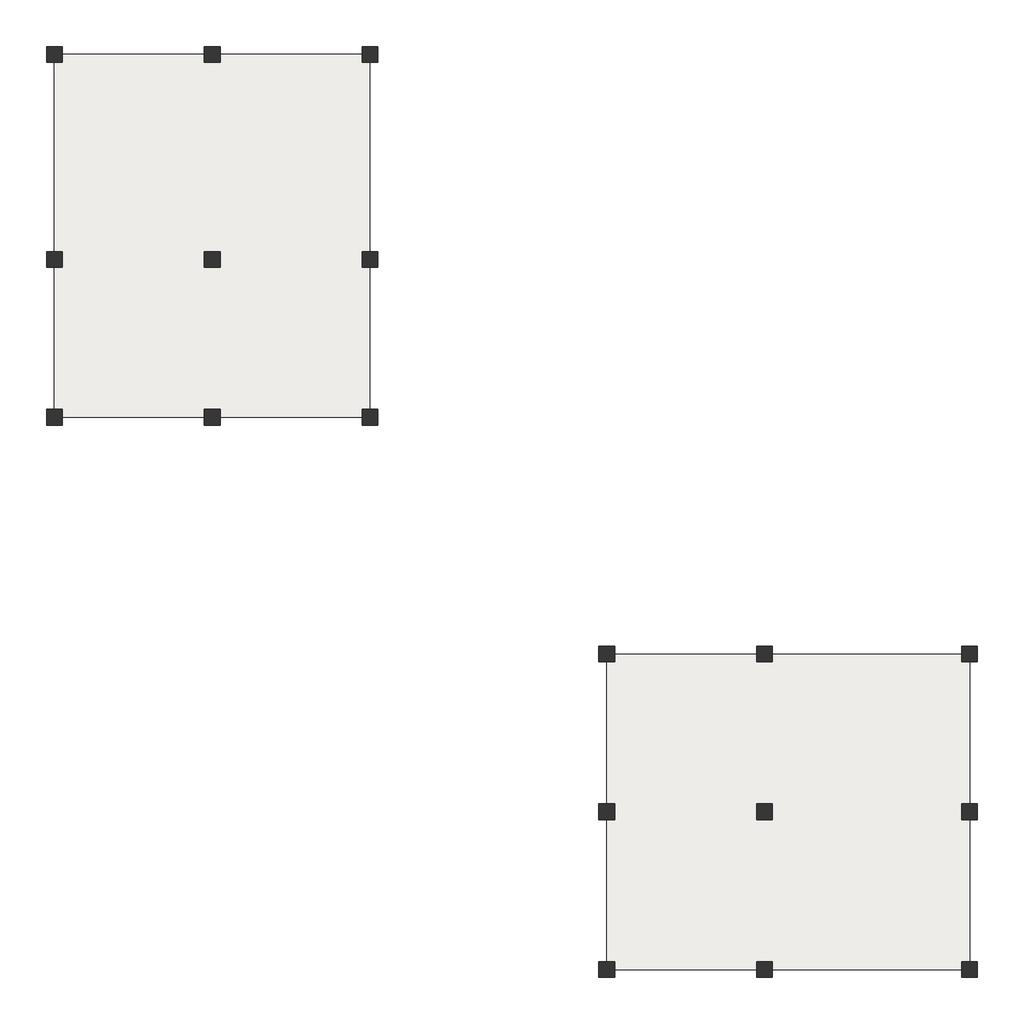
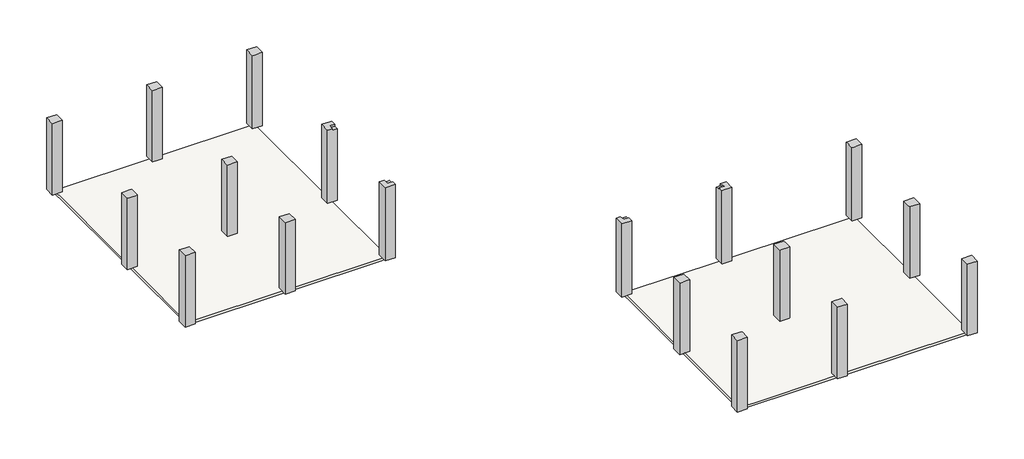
# One storey: 18 columns, 2 slabs.
"""IFC4 building model written with IfcOpenShell, lengths in millimetres."""

from ifc_helpers import new_model, si_unit, frame, origin, place, context, project, spatial, polyline, outline, extrude, faceted_brep, element, save

model = new_model("IFC4")

# Units and contexts
model_context = context("Model", 3, world=origin())
ifc_project = project(units=[si_unit("LENGTHUNIT", "METRE", prefix="MILLI")], contexts=[model_context])

# Site, building, storey
site = spatial("IfcSite", under=ifc_project)
building = spatial("IfcBuilding", under=site)
storey = spatial("IfcBuildingStorey", under=building, Name="T.O.F", Elevation=-1676.4)

# Columns
placement = place(None, origin())
element("IfcColumn", 1, ObjectType="Concrete-Rectangular-Column : 24 x 24", at=placement, inside=storey, context=model_context, shape_type="Brep", body=[
    faceted_brep([(-35055.8783408, -1898.5036449, -1676.4), (-35055.8783408, -1288.9036449, -1676.4), (-34446.2783408, -1288.9036449, -1676.4), (-34446.2783408, -1898.5036449, -1676.4), (-35055.8783408, -1898.5036449, 2927.35), (-35055.8783408, -1796.9036449, 2927.35), (-35055.8783408, -1390.5036449, 2927.35), (-35055.8783408, -1288.9036449, 2927.35), (-34446.2783408, -1288.9036449, 2927.35), (-34446.2783408, -1898.5036449, 2927.35)], [[[0, 1, 2, 3]], [[1, 0, 4, 5, 6, 7]], [[2, 1, 7, 8]], [[3, 2, 8, 9]], [[0, 3, 9, 4]], [[7, 6, 5, 4, 9, 8]]]),
])
element("IfcColumn", 2, ObjectType="Concrete-Rectangular-Column : 24 x 24", at=placement, inside=storey, context=model_context, shape_type="Brep", body=[
    faceted_brep([(-41151.8783408, -1898.5036449, -1676.4), (-41151.8783408, -1288.9036449, -1676.4), (-40542.2783408, -1288.9036449, -1676.4), (-40542.2783408, -1898.5036449, -1676.4), (-41151.8783408, -1898.5036449, 2927.35), (-41151.8783408, -1288.9036449, 2927.35), (-41050.2783408, -1288.9036449, 2927.35), (-40643.8783408, -1288.9036449, 2927.35), (-40542.2783408, -1288.9036449, 2927.35), (-40542.2783408, -1390.5036449, 2927.35), (-40542.2783408, -1796.9036449, 2927.35), (-40542.2783408, -1898.5036449, 2927.35)], [[[0, 1, 2, 3]], [[1, 0, 4, 5]], [[2, 1, 5, 6, 7, 8]], [[3, 2, 8, 9, 10, 11]], [[0, 3, 11, 4]], [[5, 4, 11, 10, 9, 8, 7, 6]]]),
])
element("IfcColumn", 3, ObjectType="Concrete-Rectangular-Column : 24 x 24", at=placement, inside=storey, context=model_context, shape_type="SweptSolid", body=[
    extrude(outline(polyline([(-35055.8783408, 4197.4963551), (-35055.8783408, 4807.0963551), (-34446.2783408, 4807.0963551), (-34446.2783408, 4197.4963551), (-35055.8783408, 4197.4963551)])), frame((0.0, 0.0, -1676.4), z_axis=(0.0, 0.0, 1.0), x_axis=(1.0, 0.0, 0.0)), (0.0, 0.0, 1.0), 4603.75),
])
element("IfcColumn", 4, ObjectType="Concrete-Rectangular-Column : 24 x 24", at=placement, inside=storey, context=model_context, shape_type="Brep", body=[
    faceted_brep([(-41151.8783408, 4197.4963551, -1676.4), (-41151.8783408, 4807.0963551, -1676.4), (-40542.2783408, 4807.0963551, -1676.4), (-40542.2783408, 4197.4963551, -1676.4), (-41151.8783408, 4197.4963551, 2927.35), (-41151.8783408, 4807.0963551, 2927.35), (-41050.2783408, 4807.0963551, 2927.35), (-40643.8783408, 4807.0963551, 2927.35), (-40542.2783408, 4807.0963551, 2927.35), (-40542.2783408, 4197.4963551, 2927.35), (-40643.8783408, 4197.4963551, 2927.35), (-41050.2783408, 4197.4963551, 2927.35)], [[[0, 1, 2, 3]], [[1, 0, 4, 5]], [[2, 1, 5, 6, 7, 8]], [[3, 2, 8, 9]], [[0, 3, 9, 10, 11, 4]], [[5, 4, 11, 10, 9, 8, 7, 6]]]),
])
element("IfcColumn", 5, ObjectType="Concrete-Rectangular-Column : 24 x 24", at=placement, inside=storey, context=model_context, shape_type="SweptSolid", body=[
    extrude(outline(polyline([(-35055.8783408, 12122.2963551), (-35055.8783408, 12731.8963551), (-34446.2783408, 12731.8963551), (-34446.2783408, 12122.2963551), (-35055.8783408, 12122.2963551)])), frame((0.0, 0.0, -1676.4), z_axis=(0.0, 0.0, 1.0), x_axis=(1.0, 0.0, 0.0)), (0.0, 0.0, 1.0), 4603.75),
])
element("IfcColumn", 6, ObjectType="Concrete-Rectangular-Column : 24 x 24", at=placement, inside=storey, context=model_context, shape_type="Brep", body=[
    faceted_brep([(-41151.8783408, 12122.2963551, -1676.4), (-41151.8783408, 12731.8963551, -1676.4), (-40542.2783408, 12731.8963551, -1676.4), (-40542.2783408, 12122.2963551, -1676.4), (-41151.8783408, 12122.2963551, 2927.35), (-41151.8783408, 12731.8963551, 2927.35), (-40542.2783408, 12731.8963551, 2927.35), (-40542.2783408, 12122.2963551, 2927.35), (-40643.8783408, 12122.2963551, 2927.35), (-41050.2783408, 12122.2963551, 2927.35)], [[[0, 1, 2, 3]], [[1, 0, 4, 5]], [[2, 1, 5, 6]], [[3, 2, 6, 7]], [[0, 3, 7, 8, 9, 4]], [[5, 4, 9, 8, 7, 6]]]),
])
element("IfcColumn", 7, ObjectType="Concrete-Rectangular-Column : 24 x 24", at=placement, inside=storey, context=model_context, shape_type="Brep", body=[
    faceted_brep([(-28959.8783408, 4197.4963551, -1676.4), (-28959.8783408, 4807.0963551, -1676.4), (-28350.2783408, 4807.0963551, -1676.4), (-28350.2783408, 4197.4963551, -1676.4), (-28959.8783408, 4197.4963551, 3048.0), (-28959.8783408, 4807.0963551, 3048.0), (-28858.2783408, 4807.0963551, 3048.0), (-28451.8783408, 4807.0963551, 3048.0), (-28350.2783408, 4807.0963551, 3048.0), (-28350.2783408, 4462.1686738, 3048.0), (-28350.2783408, 4462.1686738, 2921.0), (-28350.2783408, 4197.4963551, 2921.0), (-28451.8783408, 4197.4963551, 2921.0), (-28655.0783408, 4197.4963551, 2921.0), (-28655.0783408, 4197.4963551, 3048.0), (-28858.2783408, 4197.4963551, 3048.0), (-28655.0783408, 4502.2963551, 3048.0), (-28655.0783408, 4502.2963551, 2921.0)], [[[0, 1, 2, 3]], [[1, 0, 4, 5]], [[2, 1, 5, 6, 7, 8]], [[3, 2, 8, 9, 10, 11]], [[0, 3, 11, 12, 13, 14, 15, 4]], [[5, 4, 15, 14, 16, 9, 8, 7, 6]], [[10, 17, 13, 12, 11]], [[17, 16, 14, 13]], [[16, 17, 10, 9]]]),
])
element("IfcColumn", 8, ObjectType="Concrete-Rectangular-Column : 24 x 24", at=placement, inside=storey, context=model_context, shape_type="Brep", body=[
    faceted_brep([(-28959.8783408, -1898.5036449, -1676.4), (-28959.8783408, -1288.9036449, -1676.4), (-28350.2783408, -1288.9036449, -1676.4), (-28350.2783408, -1898.5036449, -1676.4), (-28959.8783408, -1898.5036449, 3048.0), (-28959.8783408, -1796.9036449, 3048.0), (-28959.8783408, -1390.5036449, 3048.0), (-28959.8783408, -1288.9036449, 3048.0), (-28858.2783408, -1288.9036449, 3048.0), (-28655.0783408, -1288.9036449, 3048.0), (-28655.0783408, -1288.9036449, 2921.0), (-28451.8783408, -1288.9036449, 2921.0), (-28350.2783408, -1288.9036449, 2921.0), (-28350.2783408, -1633.8313262, 2921.0), (-28350.2783408, -1633.8313262, 3048.0), (-28350.2783408, -1898.5036449, 3048.0), (-28655.0783408, -1593.7036449, 3048.0), (-28655.0783408, -1593.7036449, 2921.0)], [[[0, 1, 2, 3]], [[1, 0, 4, 5, 6, 7]], [[2, 1, 7, 8, 9, 10, 11, 12]], [[3, 2, 12, 13, 14, 15]], [[0, 3, 15, 4]], [[7, 6, 5, 4, 15, 14, 16, 9, 8]], [[10, 17, 13, 12, 11]], [[17, 16, 14, 13]], [[16, 17, 10, 9]]]),
])
element("IfcColumn", 9, ObjectType="Concrete-Rectangular-Column : 24 x 24", at=placement, inside=storey, context=model_context, shape_type="Brep", body=[
    faceted_brep([(-28959.8783408, 12122.2963551, -1676.4), (-28959.8783408, 12731.8963551, -1676.4), (-28350.2783408, 12731.8963551, -1676.4), (-28350.2783408, 12122.2963551, -1676.4), (-28959.8783408, 12122.2963551, 3048.0), (-28959.8783408, 12223.8963551, 3048.0), (-28959.8783408, 12630.2963551, 3048.0), (-28959.8783408, 12731.8963551, 3048.0), (-28350.2783408, 12731.8963551, 3048.0), (-28350.2783408, 12122.2963551, 3048.0), (-28451.8783408, 12122.2963551, 3048.0), (-28858.2783408, 12122.2963551, 3048.0)], [[[0, 1, 2, 3]], [[4, 5, 6, 7, 1, 0]], [[7, 8, 2, 1]], [[8, 9, 3, 2]], [[9, 10, 11, 4, 0, 3]], [[4, 11, 10, 9, 8, 7, 6, 5]]]),
])
element("IfcColumn", 10, ObjectType="Concrete-Rectangular-Column : 24 x 24", at=placement, inside=storey, context=model_context, shape_type="Brep", body=[
    faceted_brep([(-19206.2783408, -17138.5036449, -1676.4), (-19815.8783408, -17138.5036449, -1676.4), (-19815.8783408, -16528.9036449, -1676.4), (-19206.2783408, -16528.9036449, -1676.4), (-19206.2783408, -17138.5036449, 2927.35), (-19307.8783408, -17138.5036449, 2927.35), (-19714.2783408, -17138.5036449, 2927.35), (-19815.8783408, -17138.5036449, 2927.35), (-19206.2783408, -16528.9036449, 2927.35), (-19206.2783408, -16681.3036449, 2927.35), (-19206.2783408, -16986.1036449, 2927.35), (-19815.8783408, -16528.9036449, 2927.35)], [[[0, 1, 2, 3]], [[1, 0, 4, 5, 6, 7]], [[0, 3, 8, 9, 10, 4]], [[3, 2, 11, 8]], [[2, 1, 7, 11]], [[7, 6, 5, 4, 10, 9, 8, 11]]]),
])
element("IfcColumn", 11, ObjectType="Concrete-Rectangular-Column : 24 x 24", at=placement, inside=storey, context=model_context, shape_type="Brep", body=[
    faceted_brep([(-19206.2783408, -23234.5036449, -1676.4), (-19815.8783408, -23234.5036449, -1676.4), (-19815.8783408, -22624.9036449, -1676.4), (-19206.2783408, -22624.9036449, -1676.4), (-19206.2783408, -23234.5036449, 2927.35), (-19815.8783408, -23234.5036449, 2927.35), (-19206.2783408, -22624.9036449, 2927.35), (-19206.2783408, -22726.5036449, 2927.35), (-19206.2783408, -23132.9036449, 2927.35), (-19815.8783408, -22624.9036449, 2927.35), (-19714.2783408, -22624.9036449, 2927.35), (-19307.8783408, -22624.9036449, 2927.35)], [[[0, 1, 2, 3]], [[1, 0, 4, 5]], [[0, 3, 6, 7, 8, 4]], [[3, 2, 9, 10, 11, 6]], [[2, 1, 5, 9]], [[5, 4, 8, 7, 6, 11, 10, 9]]]),
])
element("IfcColumn", 12, ObjectType="Concrete-Rectangular-Column : 24 x 24", at=placement, inside=storey, context=model_context, shape_type="Brep", body=[
    faceted_brep([(-13110.2783408, -17138.5036449, -1676.4), (-13719.8783408, -17138.5036449, -1676.4), (-13719.8783408, -16528.9036449, -1676.4), (-13110.2783408, -16528.9036449, -1676.4), (-13110.2783408, -17138.5036449, 2927.35), (-13262.6783408, -17138.5036449, 2927.35), (-13567.4783408, -17138.5036449, 2927.35), (-13719.8783408, -17138.5036449, 2927.35), (-13110.2783408, -16528.9036449, 2927.35), (-13110.2783408, -16681.3036449, 2927.35), (-13110.2783408, -16986.1036449, 2927.35), (-13719.8783408, -16528.9036449, 2927.35), (-13719.8783408, -16986.1036449, 2927.35), (-13719.8783408, -16681.3036449, 2927.35)], [[[0, 1, 2, 3]], [[1, 0, 4, 5, 6, 7]], [[0, 3, 8, 9, 10, 4]], [[3, 2, 11, 8]], [[2, 1, 7, 12, 13, 11]], [[7, 6, 5, 4, 10, 9, 8, 11, 13, 12]]]),
])
element("IfcColumn", 13, ObjectType="Concrete-Rectangular-Column : 24 x 24", at=placement, inside=storey, context=model_context, shape_type="Brep", body=[
    faceted_brep([(-13110.2783408, -23234.5036449, -1676.4), (-13719.8783408, -23234.5036449, -1676.4), (-13719.8783408, -22624.9036449, -1676.4), (-13110.2783408, -22624.9036449, -1676.4), (-13110.2783408, -23234.5036449, 2927.35), (-13719.8783408, -23234.5036449, 2927.35), (-13110.2783408, -22624.9036449, 2927.35), (-13110.2783408, -22726.5036449, 2927.35), (-13110.2783408, -23132.9036449, 2927.35), (-13719.8783408, -22624.9036449, 2927.35), (-13567.4783408, -22624.9036449, 2927.35), (-13262.6783408, -22624.9036449, 2927.35), (-13719.8783408, -23132.9036449, 2927.35), (-13719.8783408, -22726.5036449, 2927.35)], [[[0, 1, 2, 3]], [[1, 0, 4, 5]], [[0, 3, 6, 7, 8, 4]], [[3, 2, 9, 10, 11, 6]], [[2, 1, 5, 12, 13, 9]], [[5, 4, 8, 7, 6, 11, 10, 9, 13, 12]]]),
])
element("IfcColumn", 14, ObjectType="Concrete-Rectangular-Column : 24 x 24", at=placement, inside=storey, context=model_context, shape_type="Brep", body=[
    faceted_brep([(-5185.4783408, -17138.5036449, -1676.4), (-5795.0783408, -17138.5036449, -1676.4), (-5795.0783408, -16528.9036449, -1676.4), (-5185.4783408, -16528.9036449, -1676.4), (-5185.4783408, -17138.5036449, 2927.35), (-5287.0783408, -17138.5036449, 2927.35), (-5693.4783408, -17138.5036449, 2927.35), (-5795.0783408, -17138.5036449, 2927.35), (-5185.4783408, -16528.9036449, 2927.35), (-5795.0783408, -16528.9036449, 2927.35), (-5795.0783408, -16986.1036449, 2927.35), (-5795.0783408, -16681.3036449, 2927.35)], [[[0, 1, 2, 3]], [[1, 0, 4, 5, 6, 7]], [[0, 3, 8, 4]], [[3, 2, 9, 8]], [[2, 1, 7, 10, 11, 9]], [[7, 6, 5, 4, 8, 9, 11, 10]]]),
])
element("IfcColumn", 15, ObjectType="Concrete-Rectangular-Column : 24 x 24", at=placement, inside=storey, context=model_context, shape_type="Brep", body=[
    faceted_brep([(-5185.4783408, -23234.5036449, -1676.4), (-5795.0783408, -23234.5036449, -1676.4), (-5795.0783408, -22624.9036449, -1676.4), (-5185.4783408, -22624.9036449, -1676.4), (-5185.4783408, -23234.5036449, 2927.35), (-5795.0783408, -23234.5036449, 2927.35), (-5185.4783408, -22624.9036449, 2927.35), (-5795.0783408, -22624.9036449, 2927.35), (-5693.4783408, -22624.9036449, 2927.35), (-5287.0783408, -22624.9036449, 2927.35), (-5795.0783408, -23132.9036449, 2927.35), (-5795.0783408, -22726.5036449, 2927.35)], [[[0, 1, 2, 3]], [[1, 0, 4, 5]], [[0, 3, 6, 4]], [[3, 2, 7, 8, 9, 6]], [[2, 1, 5, 10, 11, 7]], [[5, 4, 6, 9, 8, 7, 11, 10]]]),
])
element("IfcColumn", 16, ObjectType="Concrete-Rectangular-Column : 24 x 24", at=placement, inside=storey, context=model_context, shape_type="Brep", body=[
    faceted_brep([(-13110.2783408, -11042.5036449, -1676.4), (-13719.8783408, -11042.5036449, -1676.4), (-13719.8783408, -10432.9036449, -1676.4), (-13110.2783408, -10432.9036449, -1676.4), (-13110.2783408, -11042.5036449, 3048.0), (-13262.6783408, -11042.5036449, 3048.0), (-13567.4783408, -11042.5036449, 3048.0), (-13719.8783408, -11042.5036449, 3048.0), (-13110.2783408, -10432.9036449, 3048.0), (-13110.2783408, -10534.5036449, 3048.0), (-13110.2783408, -10940.9036449, 3048.0), (-13719.8783408, -10432.9036449, 2921.0), (-13455.2060221, -10432.9036449, 2921.0), (-13455.2060221, -10432.9036449, 3048.0), (-13719.8783408, -10940.9036449, 3048.0), (-13719.8783408, -10737.7036449, 3048.0), (-13719.8783408, -10737.7036449, 2921.0), (-13719.8783408, -10534.5036449, 2921.0), (-13415.0783408, -10737.7036449, 3048.0), (-13415.0783408, -10737.7036449, 2921.0)], [[[0, 1, 2, 3]], [[1, 0, 4, 5, 6, 7]], [[0, 3, 8, 9, 10, 4]], [[3, 2, 11, 12, 13, 8]], [[2, 1, 7, 14, 15, 16, 17, 11]], [[7, 6, 5, 4, 10, 9, 8, 13, 18, 15, 14]], [[16, 19, 12, 11, 17]], [[19, 18, 13, 12]], [[18, 19, 16, 15]]]),
])
element("IfcColumn", 17, ObjectType="Concrete-Rectangular-Column : 24 x 24", at=placement, inside=storey, context=model_context, shape_type="Brep", body=[
    faceted_brep([(-19206.2783408, -11042.5036449, -1676.4), (-19815.8783408, -11042.5036449, -1676.4), (-19815.8783408, -10432.9036449, -1676.4), (-19206.2783408, -10432.9036449, -1676.4), (-19206.2783408, -11042.5036449, 3048.0), (-19307.8783408, -11042.5036449, 3048.0), (-19714.2783408, -11042.5036449, 3048.0), (-19815.8783408, -11042.5036449, 3048.0), (-19206.2783408, -10432.9036449, 2921.0), (-19206.2783408, -10534.5036449, 2921.0), (-19206.2783408, -10737.7036449, 2921.0), (-19206.2783408, -10737.7036449, 3048.0), (-19206.2783408, -10940.9036449, 3048.0), (-19815.8783408, -10432.9036449, 3048.0), (-19551.2060221, -10432.9036449, 3048.0), (-19551.2060221, -10432.9036449, 2921.0), (-19511.0783408, -10737.7036449, 3048.0), (-19511.0783408, -10737.7036449, 2921.0)], [[[0, 1, 2, 3]], [[1, 0, 4, 5, 6, 7]], [[0, 3, 8, 9, 10, 11, 12, 4]], [[3, 2, 13, 14, 15, 8]], [[2, 1, 7, 13]], [[7, 6, 5, 4, 12, 11, 16, 14, 13]], [[15, 17, 10, 9, 8]], [[17, 16, 11, 10]], [[16, 17, 15, 14]]]),
])
element("IfcColumn", 18, ObjectType="Concrete-Rectangular-Column : 24 x 24", at=placement, inside=storey, context=model_context, shape_type="Brep", body=[
    faceted_brep([(-5795.0783408, -11042.5036449, -1676.4), (-5795.0783408, -10432.9036449, -1676.4), (-5185.4783408, -10432.9036449, -1676.4), (-5185.4783408, -11042.5036449, -1676.4), (-5795.0783408, -11042.5036449, 3048.0), (-5185.4783408, -11042.5036449, 3048.0), (-5287.0783408, -11042.5036449, 3048.0), (-5693.4783408, -11042.5036449, 3048.0), (-5185.4783408, -10432.9036449, 3048.0), (-5795.0783408, -10432.9036449, 3048.0), (-5795.0783408, -10940.9036449, 3048.0), (-5795.0783408, -10534.5036449, 3048.0)], [[[0, 1, 2, 3]], [[4, 0, 3, 5, 6, 7]], [[5, 3, 2, 8]], [[8, 2, 1, 9]], [[9, 1, 0, 4, 10, 11]], [[4, 7, 6, 5, 8, 9, 11, 10]]]),
])

# Slabs
element("IfcSlab", 19, ObjectType="6\" Foundation Slab", at=placement, inside=storey, context=model_context, shape_type="Brep", body=[
    faceted_brep([(-28655.0783408, 12427.0963551, -1828.8), (-28655.0783408, 11512.6963551, -1828.8), (-28655.0783408, 5416.6963551, -1828.8), (-28655.0783408, 3587.8963551, -1828.8), (-28655.0783408, -679.3036449, -1828.8), (-28655.0783408, -1593.7036449, -1828.8), (-29264.6783408, -1593.7036449, -1828.8), (-34141.4783408, -1593.7036449, -1828.8), (-35360.6783408, -1593.7036449, -1828.8), (-40237.4783408, -1593.7036449, -1828.8), (-40847.0783408, -1593.7036449, -1828.8), (-40847.0783408, -679.3036449, -1828.8), (-40847.0783408, 3587.8963551, -1828.8), (-40847.0783408, 5416.6963551, -1828.8), (-40847.0783408, 11512.6963551, -1828.8), (-40847.0783408, 12427.0963551, -1828.8), (-40237.4783408, 12427.0963551, -1828.8), (-35360.6783408, 12427.0963551, -1828.8), (-34141.4783408, 12427.0963551, -1828.8), (-29264.6783408, 12427.0963551, -1828.8), (-28655.0783408, 12427.0963551, -1676.4), (-29264.6783408, 12427.0963551, -1676.4), (-34141.4783408, 12427.0963551, -1676.4), (-35360.6783408, 12427.0963551, -1676.4), (-40237.4783408, 12427.0963551, -1676.4), (-40847.0783408, 12427.0963551, -1676.4), (-40847.0783408, 11512.6963551, -1676.4), (-40847.0783408, 5416.6963551, -1676.4), (-40847.0783408, 3587.8963551, -1676.4), (-40847.0783408, -679.3036449, -1676.4), (-40847.0783408, -1593.7036449, -1676.4), (-40237.4783408, -1593.7036449, -1676.4), (-35360.6783408, -1593.7036449, -1676.4), (-34141.4783408, -1593.7036449, -1676.4), (-29264.6783408, -1593.7036449, -1676.4), (-28655.0783408, -1593.7036449, -1676.4), (-28655.0783408, -679.3036449, -1676.4), (-28655.0783408, 3587.8963551, -1676.4), (-28655.0783408, 5416.6963551, -1676.4), (-28655.0783408, 11512.6963551, -1676.4)], [[[0, 1, 2, 3, 4, 5, 6, 7, 8, 9, 10, 11, 12, 13, 14, 15, 16, 17, 18, 19]], [[20, 21, 22, 23, 24, 25, 26, 27, 28, 29, 30, 31, 32, 33, 34, 35, 36, 37, 38, 39]], [[5, 4, 3, 2, 1, 0, 20, 39, 38, 37, 36, 35]], [[10, 9, 8, 7, 6, 5, 35, 34, 33, 32, 31, 30]], [[15, 14, 13, 12, 11, 10, 30, 29, 28, 27, 26, 25]], [[0, 19, 18, 17, 16, 15, 25, 24, 23, 22, 21, 20]]]),
])
element("IfcSlab", 20, ObjectType="6\" Foundation Slab", at=placement, inside=storey, context=model_context, shape_type="Brep", body=[
    faceted_brep([(-5490.2783408, -10737.7036449, -1828.8), (-5490.2783408, -11347.3036449, -1828.8), (-5490.2783408, -16224.1036449, -1828.8), (-5490.2783408, -17443.3036449, -1828.8), (-5490.2783408, -22320.1036449, -1828.8), (-5490.2783408, -22929.7036449, -1828.8), (-6404.6783408, -22929.7036449, -1828.8), (-12500.6783408, -22929.7036449, -1828.8), (-14329.4783408, -22929.7036449, -1828.8), (-18596.6783408, -22929.7036449, -1828.8), (-19511.0783408, -22929.7036449, -1828.8), (-19511.0783408, -22320.1036449, -1828.8), (-19511.0783408, -17443.3036449, -1828.8), (-19511.0783408, -16224.1036449, -1828.8), (-19511.0783408, -11347.3036449, -1828.8), (-19511.0783408, -10737.7036449, -1828.8), (-18596.6783408, -10737.7036449, -1828.8), (-14329.4783408, -10737.7036449, -1828.8), (-12500.6783408, -10737.7036449, -1828.8), (-6404.6783408, -10737.7036449, -1828.8), (-5490.2783408, -10737.7036449, -1676.4), (-6404.6783408, -10737.7036449, -1676.4), (-12500.6783408, -10737.7036449, -1676.4), (-14329.4783408, -10737.7036449, -1676.4), (-18596.6783408, -10737.7036449, -1676.4), (-19511.0783408, -10737.7036449, -1676.4), (-19511.0783408, -11347.3036449, -1676.4), (-19511.0783408, -16224.1036449, -1676.4), (-19511.0783408, -17443.3036449, -1676.4), (-19511.0783408, -22320.1036449, -1676.4), (-19511.0783408, -22929.7036449, -1676.4), (-18596.6783408, -22929.7036449, -1676.4), (-14329.4783408, -22929.7036449, -1676.4), (-12500.6783408, -22929.7036449, -1676.4), (-6404.6783408, -22929.7036449, -1676.4), (-5490.2783408, -22929.7036449, -1676.4), (-5490.2783408, -22320.1036449, -1676.4), (-5490.2783408, -17443.3036449, -1676.4), (-5490.2783408, -16224.1036449, -1676.4), (-5490.2783408, -11347.3036449, -1676.4)], [[[0, 1, 2, 3, 4, 5, 6, 7, 8, 9, 10, 11, 12, 13, 14, 15, 16, 17, 18, 19]], [[20, 21, 22, 23, 24, 25, 26, 27, 28, 29, 30, 31, 32, 33, 34, 35, 36, 37, 38, 39]], [[0, 19, 18, 17, 16, 15, 25, 24, 23, 22, 21, 20]], [[15, 14, 13, 12, 11, 10, 30, 29, 28, 27, 26, 25]], [[10, 9, 8, 7, 6, 5, 35, 34, 33, 32, 31, 30]], [[5, 4, 3, 2, 1, 0, 20, 39, 38, 37, 36, 35]]]),
])

save(model, "model.ifc")
